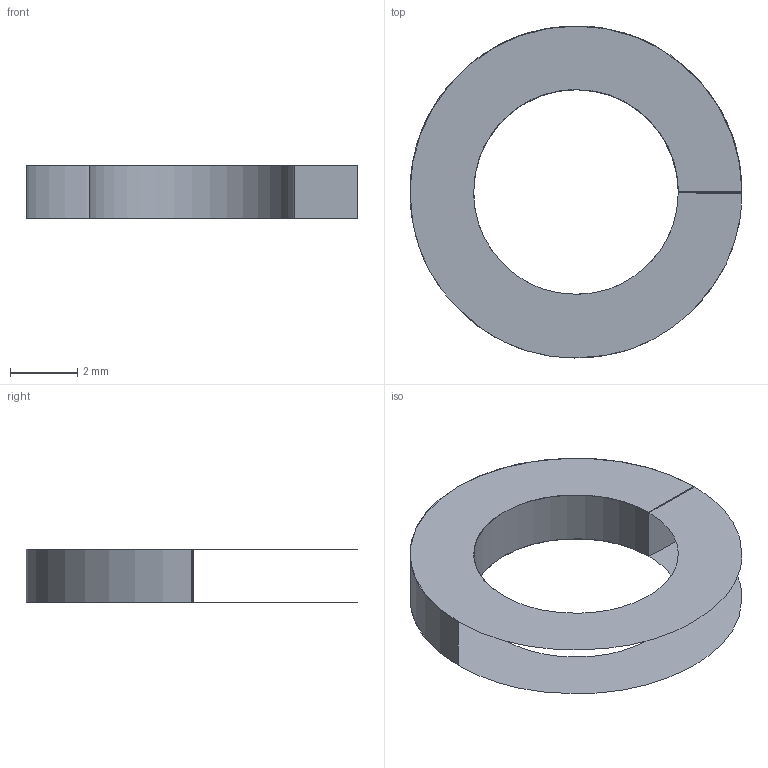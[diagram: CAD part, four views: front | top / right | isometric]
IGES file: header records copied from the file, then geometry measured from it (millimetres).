
Global section: file name: E:\UnigraphicsGraphicData\MISUMI_PRESS-PARTS\IGES\3d_cbw6_06365_r00.igs; native system: NX V5.0; preprocessor: UGS NX IGES V5.0; author: MISUMI; date: 20110105.160204; units: millimetre
Bounding box: 9.9 x 9.9 x 1.6 mm (x, y, z)
Surface area: 141.9 mm2 (no closed solid volume)
Topology: 0 solids, 0 shells, 6 faces, 52 edges, 52 vertices
Faces by surface type: bspline 6
